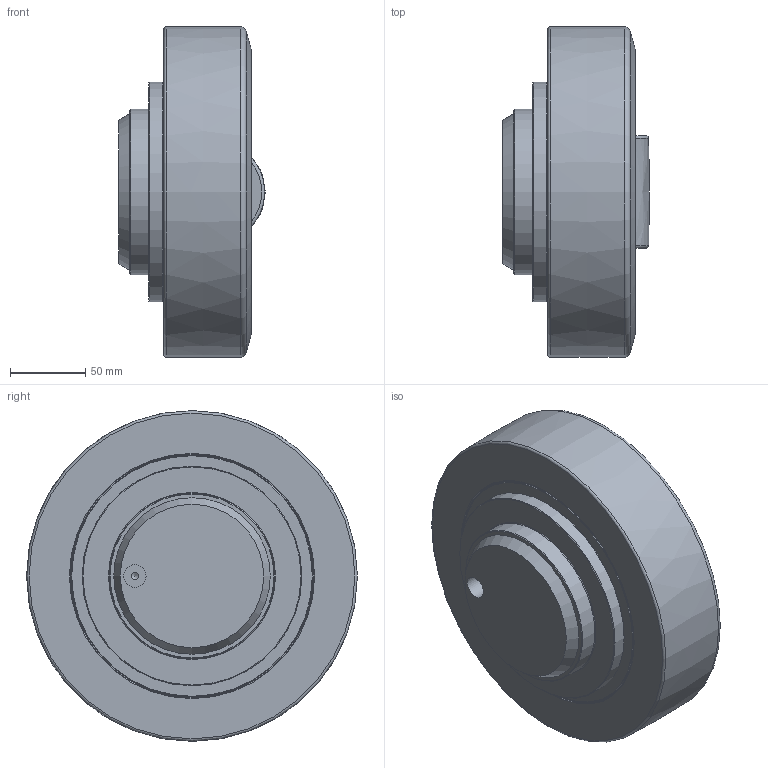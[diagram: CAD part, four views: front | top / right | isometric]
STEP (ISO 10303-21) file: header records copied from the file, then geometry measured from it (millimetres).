
FILE_DESCRIPTION(/* description */ ('-','CAx-IF Rec.Pracs.---Representation and Presentation of Product Manufacturing Information (PMI)---4.0---2014-10-13'),/* implementation_level */ '2;1');
FILE_NAME(/* name */ 'c:\temp\ccf04398-89ca-475a-9d66-471b09e5fc8f\c0b60295-6352-43b2-bce5-985176d3b5bf.stp',/* time_stamp */ '2020-04-01T16:09:56+02:00',/* author */ ('-'),/* organization */ ('NTI CADcenter A/S'),/* preprocessor_version */ 'ST-DEVELOPER v18',/* originating_system */ 'Autodesk Inventor 2020',/* authorisation */ '-');
FILE_SCHEMA (('AP242_MANAGED_MODEL_BASED_3D_ENGINEERING_MIM_LF { 1 0 10303 442 1 1 4 }'));
Length unit declared in the file: millimetre
Products named in the file (1): MR 220.0610_Kontur
Bounding box: 97.5 x 219.98 x 220 mm (x, y, z)
Volume: 2531575.8 mm3; surface area: 147336.9 mm2
Topology: 1 solids, 1 shells, 104 faces, 268 edges, 189 vertices
Faces by surface type: plane 63, cylinder 17, cone 16, torus 6, bspline 2
Full cylindrical faces by diameter (mm): 2.5 x1, 4.917 x1, 15 x1, 15.6 x6, 110 x1, 146 x1, 148 x2, 161 x2, 162 x2
Entity records: 3381 total; most frequent: CARTESIAN_POINT 677, DIRECTION 579, ORIENTED_EDGE 534, EDGE_CURVE 267, AXIS2_PLACEMENT_3D 218, VERTEX_POINT 189, LINE 143, VECTOR 143
